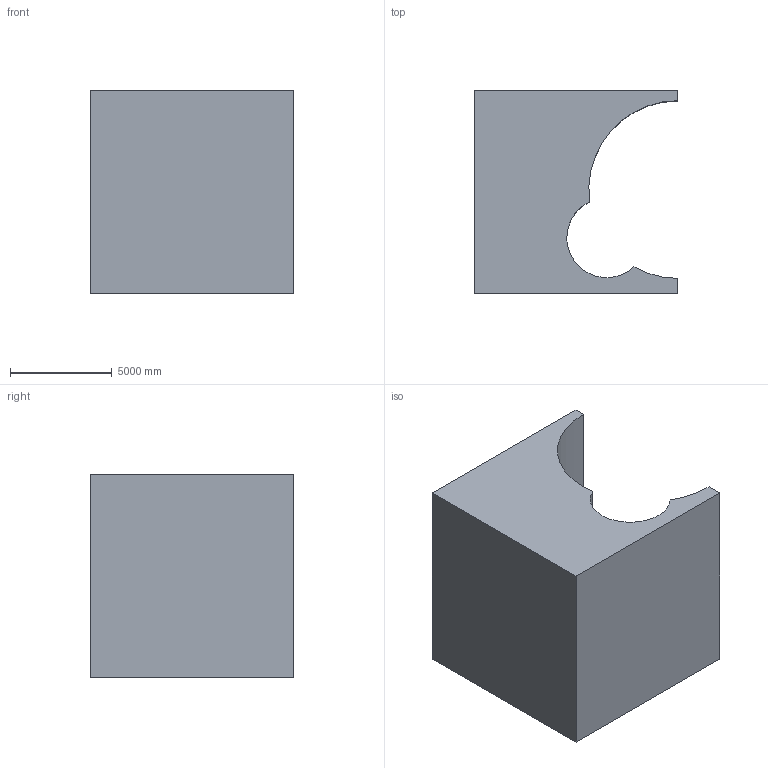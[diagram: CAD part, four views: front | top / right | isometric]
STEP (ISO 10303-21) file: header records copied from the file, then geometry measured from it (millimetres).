
FILE_DESCRIPTION (( 'STEP AP203' ), '1' );
FILE_NAME ('67.STEP', '2022-07-28T13:32:08', ( 'user' ), ( '' ), 'SwSTEP 2.0', 'SolidWorks 2021', '' );
FILE_SCHEMA (( 'CONFIG_CONTROL_DESIGN' ));
Length unit declared in the file: centimetre
Products named in the file (1): 67
Bounding box: 10000 x 10000 x 10000 mm (x, y, z)
Volume: 639663443183.9 mm3; surface area: 605346573.6 mm2
Topology: 1 solids, 1 shells, 10 faces, 24 edges, 16 vertices
Faces by surface type: plane 7, cylinder 3
Entity records: 371 total; most frequent: DIRECTION 52, CARTESIAN_POINT 51, ORIENTED_EDGE 48, EDGE_CURVE 24, LINE 18, VECTOR 18, AXIS2_PLACEMENT_3D 17, VERTEX_POINT 16
